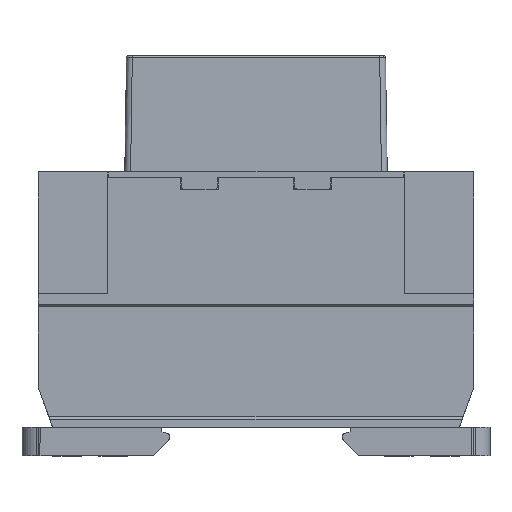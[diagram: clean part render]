
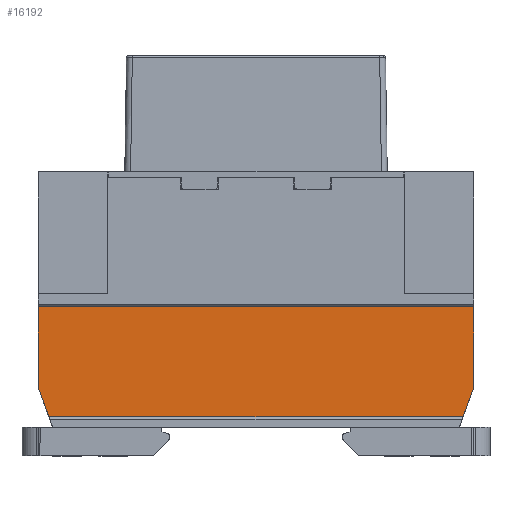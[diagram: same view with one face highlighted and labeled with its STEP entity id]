
A CAD part, left-side view. The second image highlights one B-rep face of the part: STEP entity #16192.
In plain terms, the highlighted planar face has unit normal (-1, 0, 0).
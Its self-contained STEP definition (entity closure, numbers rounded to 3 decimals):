
#434 = FACE_OUTER_BOUND ( 'NONE', #16325, .T. ) ;
#542 = ORIENTED_EDGE ( 'NONE', *, *, #12351, .T. ) ;
#645 = VERTEX_POINT ( 'NONE', #16817 ) ;
#1917 = VERTEX_POINT ( 'NONE', #15845 ) ;
#2078 = VERTEX_POINT ( 'NONE', #2812 ) ;
#2812 = CARTESIAN_POINT ( 'NONE',  ( 0.45, 77.8, 25.75 ) ) ;
#3146 = VERTEX_POINT ( 'NONE', #6027 ) ;
#3267 = CARTESIAN_POINT ( 'NONE',  ( 0.45, 5.3, 5. ) ) ;
#4364 = VECTOR ( 'NONE', #11318, 1000. ) ;
#4439 = DIRECTION ( 'NONE',  ( 0., -1., 0. ) ) ;
#4705 = EDGE_CURVE ( 'NONE', #1917, #645, #9766, .T. ) ;
#5452 = ORIENTED_EDGE ( 'NONE', *, *, #8251, .F. ) ;
#5598 = ORIENTED_EDGE ( 'NONE', *, *, #6221, .F. ) ;
#5975 = VERTEX_POINT ( 'NONE', #14442 ) ;
#5989 = EDGE_CURVE ( 'NONE', #2078, #3146, #14217, .T. ) ;
#6027 = CARTESIAN_POINT ( 'NONE',  ( 0.45, 2.8, 25.75 ) ) ;
#6092 = DIRECTION ( 'NONE',  ( 0., 0., 1. ) ) ;
#6221 = EDGE_CURVE ( 'NONE', #1917, #16402, #8898, .T. ) ;
#6222 = DIRECTION ( 'NONE',  ( 0., 0., 1. ) ) ;
#6832 = CARTESIAN_POINT ( 'NONE',  ( 0.45, 77.8, 6.85 ) ) ;
#8251 = EDGE_CURVE ( 'NONE', #5975, #645, #16184, .T. ) ;
#8898 = LINE ( 'NONE', #20277, #19982 ) ;
#9766 = LINE ( 'NONE', #19975, #4364 ) ;
#9938 = VECTOR ( 'NONE', #4439, 1000. ) ;
#10857 = CARTESIAN_POINT ( 'NONE',  ( 0.45, 77.8, 25.75 ) ) ;
#11318 = DIRECTION ( 'NONE',  ( 0., -1., 0. ) ) ;
#12054 = DIRECTION ( 'NONE',  ( 0., 0.342, 0.94 ) ) ;
#12351 = EDGE_CURVE ( 'NONE', #5975, #3146, #14511, .T. ) ;
#12618 = LINE ( 'NONE', #14043, #13367 ) ;
#13367 = VECTOR ( 'NONE', #6092, 1000. ) ;
#13659 = VECTOR ( 'NONE', #6222, 1000. ) ;
#13664 = DIRECTION ( 'NONE',  ( 0., 0., -1. ) ) ;
#14043 = CARTESIAN_POINT ( 'NONE',  ( 0.45, 77.8, 6.85 ) ) ;
#14217 = LINE ( 'NONE', #10857, #9938 ) ;
#14442 = CARTESIAN_POINT ( 'NONE',  ( 0.45, 2.8, 11.869 ) ) ;
#14511 = LINE ( 'NONE', #21126, #13659 ) ;
#15845 = CARTESIAN_POINT ( 'NONE',  ( 0.45, 75.973, 6.85 ) ) ;
#16184 = LINE ( 'NONE', #3267, #21283 ) ;
#16192 = ADVANCED_FACE ( 'NONE', ( #434 ), #20288, .F. ) ;
#16319 = ORIENTED_EDGE ( 'NONE', *, *, #17938, .F. ) ;
#16325 = EDGE_LOOP ( 'NONE', ( #542, #17940, #16319, #5598, #19241, #5452 ) ) ;
#16402 = VERTEX_POINT ( 'NONE', #17739 ) ;
#16480 = AXIS2_PLACEMENT_3D ( 'NONE', #6832, #16903, #13664 ) ;
#16817 = CARTESIAN_POINT ( 'NONE',  ( 0.45, 4.627, 6.85 ) ) ;
#16903 = DIRECTION ( 'NONE',  ( 1., 0., 0. ) ) ;
#17739 = CARTESIAN_POINT ( 'NONE',  ( 0.45, 77.8, 11.869 ) ) ;
#17938 = EDGE_CURVE ( 'NONE', #16402, #2078, #12618, .T. ) ;
#17940 = ORIENTED_EDGE ( 'NONE', *, *, #5989, .F. ) ;
#18010 = DIRECTION ( 'NONE',  ( 0., 0.342, -0.94 ) ) ;
#19241 = ORIENTED_EDGE ( 'NONE', *, *, #4705, .T. ) ;
#19975 = CARTESIAN_POINT ( 'NONE',  ( 0.45, 77.8, 6.85 ) ) ;
#19982 = VECTOR ( 'NONE', #12054, 1000. ) ;
#20277 = CARTESIAN_POINT ( 'NONE',  ( 0.45, 75.3, 5. ) ) ;
#20288 = PLANE ( 'NONE',  #16480 ) ;
#21126 = CARTESIAN_POINT ( 'NONE',  ( 0.45, 2.8, 6.85 ) ) ;
#21283 = VECTOR ( 'NONE', #18010, 1000. ) ;
